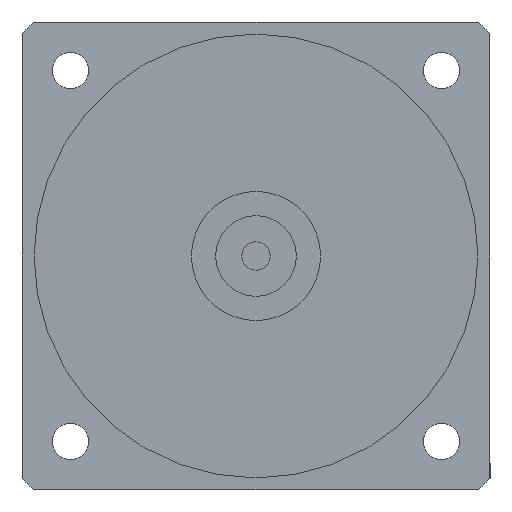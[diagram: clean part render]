
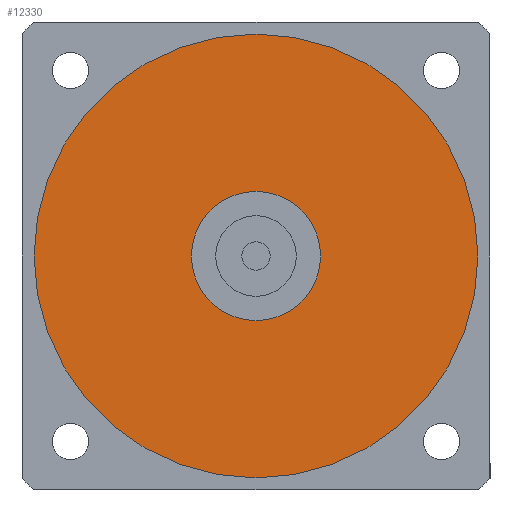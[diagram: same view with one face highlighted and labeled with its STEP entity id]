
A CAD part, left-side view. The second image highlights one B-rep face of the part: STEP entity #12330.
In plain terms, the highlighted planar face has unit normal (-1, 0, 0) as drawn and (0, 0, -1) by its records, which use the part's own axes.
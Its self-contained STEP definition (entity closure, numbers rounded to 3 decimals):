
#11900=CARTESIAN_POINT('',(0.,0.,
-88.5));
#11910=DIRECTION('',(0.,0.,1.));
#11920=DIRECTION('',(-1.,0.,0.));
#11930=AXIS2_PLACEMENT_3D('',#11900,#11910,#11920);
#11940=PLANE('',#11930);
#11950=CARTESIAN_POINT('',(0.,0.,
-88.5));
#11960=DIRECTION('',(0.,0.,1.));
#11970=DIRECTION('',(0.,-1.,0.));
#11980=AXIS2_PLACEMENT_3D('',#11950,#11960,#11970);
#11990=CIRCLE('',#11980,55.);
#12000=CARTESIAN_POINT('',(0.,-55.,-88.5));
#12010=VERTEX_POINT('',#12000);
#12020=CARTESIAN_POINT('',(55.,0.,-88.5));
#12030=VERTEX_POINT('',#12020);
#12040=EDGE_CURVE('',#12010,#12030,#11990,.T.);
#12050=ORIENTED_EDGE('',*,*,#12040,.F.);
#12060=CARTESIAN_POINT('',(-55.,0.,-88.5));
#12070=VERTEX_POINT('',#12060);
#12080=EDGE_CURVE('',#12030,#12070,#11990,.T.);
#12090=ORIENTED_EDGE('',*,*,#12080,.F.);
#12100=EDGE_CURVE('',#12070,#12010,#11990,.T.);
#12110=ORIENTED_EDGE('',*,*,#12100,.F.);
#12120=EDGE_LOOP('',(#12110,#12090,#12050));
#12130=FACE_OUTER_BOUND('',#12120,.T.);
#12140=CARTESIAN_POINT('',(0.,0.,
-88.5));
#12150=DIRECTION('',(0.,0.,1.));
#12160=DIRECTION('',(0.,-1.,0.));
#12170=AXIS2_PLACEMENT_3D('',#12140,#12150,#12160);
#12180=CIRCLE('',#12170,16.);
#12190=CARTESIAN_POINT('',(16.,0.,-88.5));
#12200=VERTEX_POINT('',#12190);
#12210=CARTESIAN_POINT('',(-16.,0.,-88.5));
#12220=VERTEX_POINT('',#12210);
#12230=EDGE_CURVE('',#12200,#12220,#12180,.T.);
#12240=ORIENTED_EDGE('',*,*,#12230,.T.);
#12250=CARTESIAN_POINT('',(0.,-16.,-88.5));
#12260=VERTEX_POINT('',#12250);
#12270=EDGE_CURVE('',#12260,#12200,#12180,.T.);
#12280=ORIENTED_EDGE('',*,*,#12270,.T.);
#12290=EDGE_CURVE('',#12220,#12260,#12180,.T.);
#12300=ORIENTED_EDGE('',*,*,#12290,.T.);
#12310=EDGE_LOOP('',(#12300,#12280,#12240));
#12320=FACE_BOUND('',#12310,.T.);
#12330=ADVANCED_FACE('',(#12130,#12320),#11940,.F.);
